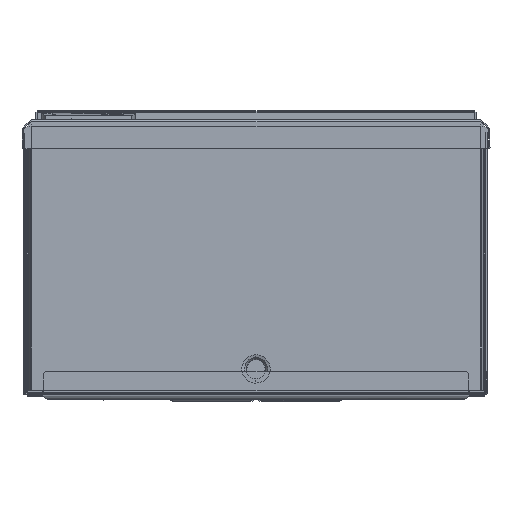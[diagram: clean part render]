
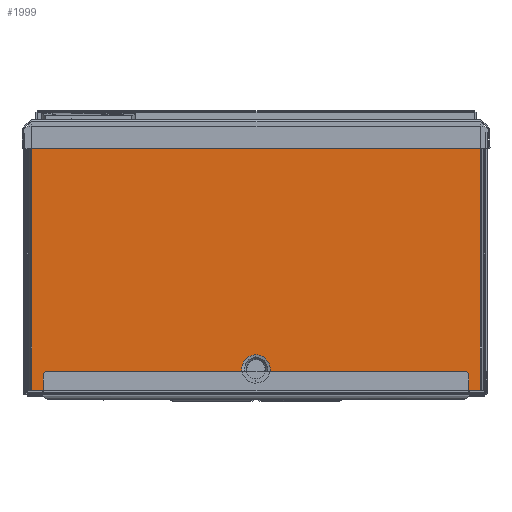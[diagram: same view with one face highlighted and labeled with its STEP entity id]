
A CAD part, front view. The second image highlights one B-rep face of the part: STEP entity #1999.
In plain terms, the highlighted planar face has unit normal (0, -1, 0).
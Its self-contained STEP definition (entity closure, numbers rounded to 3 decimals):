
#1999=ADVANCED_FACE('',(#4655,#2805),#35222,.T.);
#2805=FACE_BOUND('',#7311,.T.);
#4655=FACE_OUTER_BOUND('',#7310,.T.);
#7310=EDGE_LOOP('',(#18013,#18014,#18015,#18016,#18017,#18018));
#7311=EDGE_LOOP('',(#18019,#18020));
#18013=ORIENTED_EDGE('',*,*,#23885,.F.);
#18014=ORIENTED_EDGE('',*,*,#23886,.F.);
#18015=ORIENTED_EDGE('',*,*,#23887,.F.);
#18016=ORIENTED_EDGE('',*,*,#23888,.F.);
#18017=ORIENTED_EDGE('',*,*,#23889,.F.);
#18018=ORIENTED_EDGE('',*,*,#23890,.F.);
#18019=ORIENTED_EDGE('',*,*,#23895,.F.);
#18020=ORIENTED_EDGE('',*,*,#23875,.F.);
#23875=EDGE_CURVE('',#33208,#33209,#24423,.T.);
#23885=EDGE_CURVE('',#33216,#33217,#29633,.T.);
#23886=EDGE_CURVE('',#33218,#33216,#29634,.T.);
#23887=EDGE_CURVE('',#33219,#33218,#29635,.T.);
#23888=EDGE_CURVE('',#33220,#33219,#29636,.T.);
#23889=EDGE_CURVE('',#33221,#33220,#29637,.T.);
#23890=EDGE_CURVE('',#33217,#33221,#29638,.T.);
#23895=EDGE_CURVE('',#33209,#33208,#24427,.T.);
#24423=(
BOUNDED_CURVE()
B_SPLINE_CURVE(2,(#60001,#60002,#60003,#60004,#60005),.UNSPECIFIED.,.F.,
 .F.)
B_SPLINE_CURVE_WITH_KNOTS((3,2,3),(0.,19.231,38.461),
 .UNSPECIFIED.)
CURVE()
GEOMETRIC_REPRESENTATION_ITEM()
RATIONAL_B_SPLINE_CURVE((1.,0.707,1.,0.707,1.))
REPRESENTATION_ITEM('')
);
#24427=(
BOUNDED_CURVE()
B_SPLINE_CURVE(2,(#60049,#60050,#60051,#60052,#60053),.UNSPECIFIED.,.F.,
 .F.)
B_SPLINE_CURVE_WITH_KNOTS((3,2,3),(0.,19.231,38.461),
 .UNSPECIFIED.)
CURVE()
GEOMETRIC_REPRESENTATION_ITEM()
RATIONAL_B_SPLINE_CURVE((1.,0.707,1.,0.707,1.))
REPRESENTATION_ITEM('')
);
#29633=B_SPLINE_CURVE_WITH_KNOTS('',1,(#60029,#60030),.UNSPECIFIED.,.F.,
 .F.,(2,2),(-227.5,0.),.UNSPECIFIED.);
#29634=B_SPLINE_CURVE_WITH_KNOTS('',1,(#60031,#60032),.UNSPECIFIED.,.F.,
 .F.,(2,2),(-387.5,0.),.UNSPECIFIED.);
#29635=B_SPLINE_CURVE_WITH_KNOTS('',1,(#60033,#60034),.UNSPECIFIED.,.F.,
 .F.,(2,2),(-227.5,0.),.UNSPECIFIED.);
#29636=B_SPLINE_CURVE_WITH_KNOTS('',1,(#60035,#60036),.UNSPECIFIED.,.F.,
 .F.,(2,2),(-9.75,0.),.UNSPECIFIED.);
#29637=B_SPLINE_CURVE_WITH_KNOTS('',1,(#60037,#60038),.UNSPECIFIED.,.F.,
 .F.,(2,2),(-368.,0.),.UNSPECIFIED.);
#29638=B_SPLINE_CURVE_WITH_KNOTS('',1,(#60039,#60040),.UNSPECIFIED.,.F.,
 .F.,(2,2),(-9.75,0.),.UNSPECIFIED.);
#33208=VERTEX_POINT('',#59891);
#33209=VERTEX_POINT('',#59892);
#33216=VERTEX_POINT('',#59899);
#33217=VERTEX_POINT('',#59900);
#33218=VERTEX_POINT('',#59901);
#33219=VERTEX_POINT('',#59902);
#33220=VERTEX_POINT('',#59903);
#33221=VERTEX_POINT('',#59904);
#35222=PLANE('',#37103);
#37103=AXIS2_PLACEMENT_3D('',#59508,#39008,$);
#39008=DIRECTION('',(0.,-1.,0.));
#59508=CARTESIAN_POINT('',(-2.141,369.525,553.084));
#59891=CARTESIAN_POINT('',(230.359,369.525,606.327));
#59892=CARTESIAN_POINT('',(230.359,369.525,581.842));
#59899=CARTESIAN_POINT('',(424.109,369.525,803.334));
#59900=CARTESIAN_POINT('',(424.109,369.525,575.834));
#59901=CARTESIAN_POINT('',(36.609,369.525,803.334));
#59902=CARTESIAN_POINT('',(36.609,369.525,575.834));
#59903=CARTESIAN_POINT('',(46.359,369.525,575.834));
#59904=CARTESIAN_POINT('',(414.359,369.525,575.834));
#60001=CARTESIAN_POINT('',(230.359,369.525,606.327));
#60002=CARTESIAN_POINT('',(218.116,369.525,606.327));
#60003=CARTESIAN_POINT('',(218.116,369.525,594.084));
#60004=CARTESIAN_POINT('',(218.116,369.525,581.842));
#60005=CARTESIAN_POINT('',(230.359,369.525,581.842));
#60029=CARTESIAN_POINT('',(424.109,369.525,803.334));
#60030=CARTESIAN_POINT('',(424.109,369.525,575.834));
#60031=CARTESIAN_POINT('',(36.609,369.525,803.334));
#60032=CARTESIAN_POINT('',(424.109,369.525,803.334));
#60033=CARTESIAN_POINT('',(36.609,369.525,575.834));
#60034=CARTESIAN_POINT('',(36.609,369.525,803.334));
#60035=CARTESIAN_POINT('',(46.359,369.525,575.834));
#60036=CARTESIAN_POINT('',(36.609,369.525,575.834));
#60037=CARTESIAN_POINT('',(414.359,369.525,575.834));
#60038=CARTESIAN_POINT('',(46.359,369.525,575.834));
#60039=CARTESIAN_POINT('',(424.109,369.525,575.834));
#60040=CARTESIAN_POINT('',(414.359,369.525,575.834));
#60049=CARTESIAN_POINT('',(230.359,369.525,581.842));
#60050=CARTESIAN_POINT('',(242.601,369.525,581.842));
#60051=CARTESIAN_POINT('',(242.601,369.525,594.084));
#60052=CARTESIAN_POINT('',(242.601,369.525,606.327));
#60053=CARTESIAN_POINT('',(230.359,369.525,606.327));
